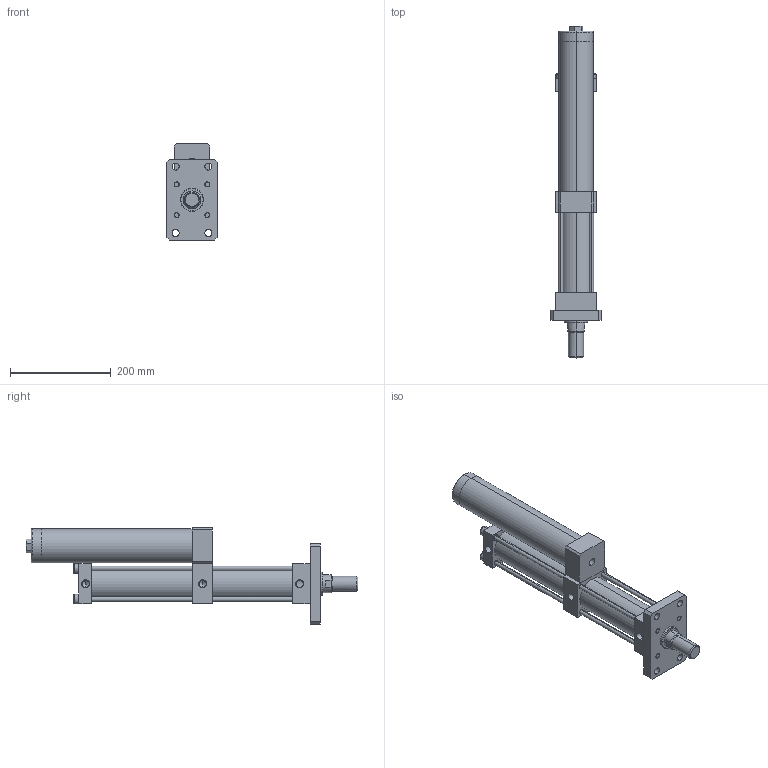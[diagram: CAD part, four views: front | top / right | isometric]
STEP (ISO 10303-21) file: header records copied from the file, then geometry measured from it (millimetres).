
FILE_DESCRIPTION (( 'STEP AP203' ), '1' );
FILE_NAME ('MPT-63-100-15-1T.STEP', '2016-03-17T09:39:50', ( 'WIN' ), ( '' ), 'SwSTEP 2.0', 'SolidWorks 2014', '' );
FILE_SCHEMA (( 'CONFIG_CONTROL_DESIGN' ));
Length unit declared in the file: millimetre
Products named in the file (1): MPT-63-100-15-1T
Bounding box: 100 x 660 x 191 mm (x, y, z)
Volume: 2483594.2 mm3; surface area: 461333.1 mm2
Topology: 14 solids, 14 shells, 251 faces, 573 edges, 360 vertices
Faces by surface type: plane 131, cylinder 84, cone 24, torus 12
Entity records: 7235 total; most frequent: DIRECTION 1304, CARTESIAN_POINT 1278, ORIENTED_EDGE 1134, EDGE_CURVE 567, AXIS2_PLACEMENT_3D 496, VERTEX_POINT 360, LINE 312, VECTOR 312
